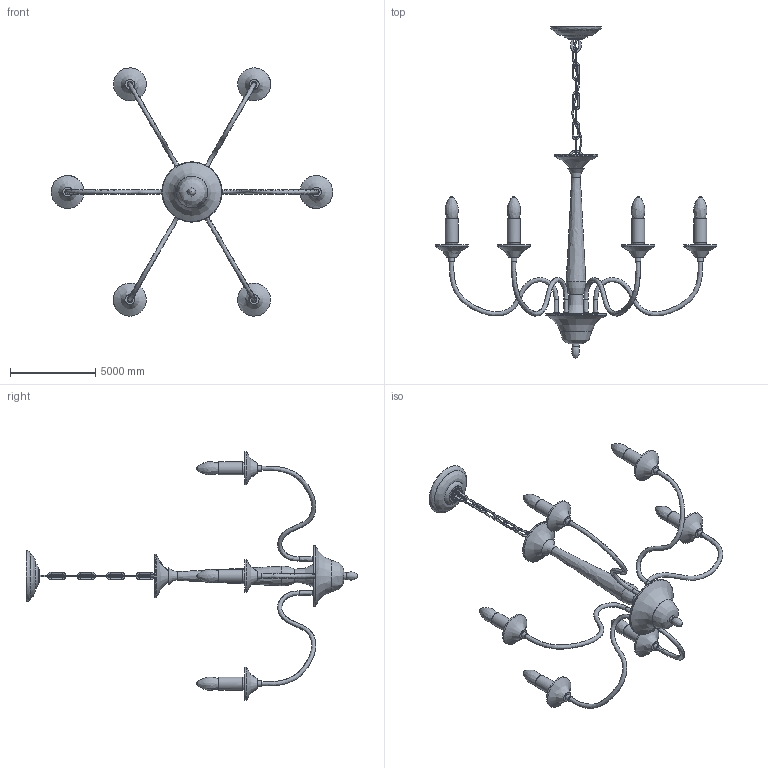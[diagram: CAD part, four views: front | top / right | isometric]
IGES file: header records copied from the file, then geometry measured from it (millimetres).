
Global section: file name: Candle Brass Chandelier-6heads; native system: AutoCAD 2022 - 简体中文 (Simplified Chinese),62HAuto; preprocessor: desk Translation Framework DWG producer (atf_dwg_producer); organization: unknown; date: 20260106.144351; units: inch
Bounding box: 16466.3 x 19414.56 x 14518.04 mm (x, y, z)
Volume: 17582385741.2 mm3; surface area: 335885863.1 mm2
Topology: 58 solids, 64 shells, 518 faces, 1220 edges, 793 vertices
Faces by surface type: bspline 518
